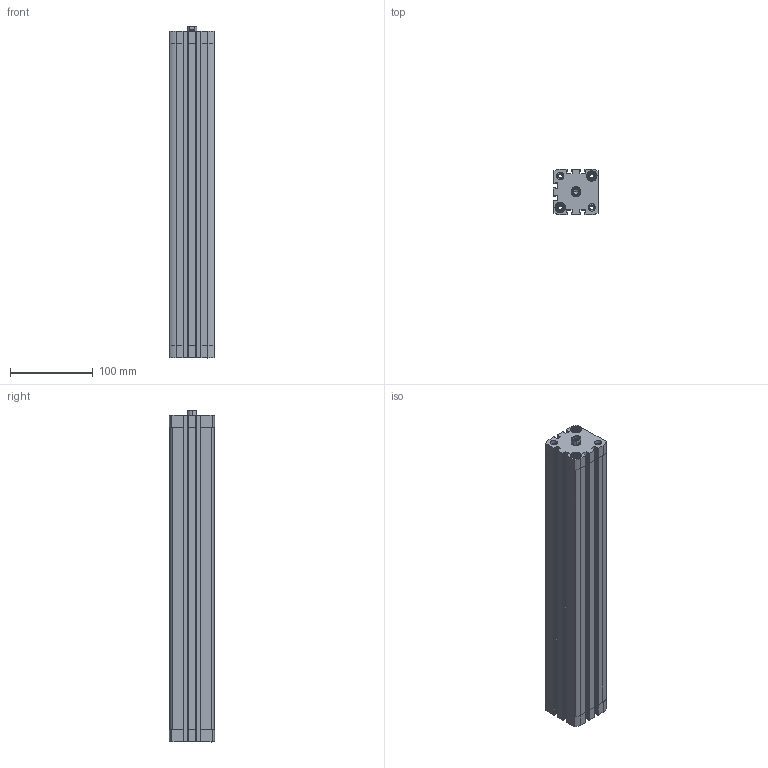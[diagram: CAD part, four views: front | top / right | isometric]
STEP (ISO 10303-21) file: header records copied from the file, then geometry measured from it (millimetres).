
FILE_DESCRIPTION (( 'STEP AP203' ), '1' );
FILE_NAME ('CCN40-350F.STEP', '2017-03-30T11:05:23', ( '' ), ( '' ), 'SwSTEP 2.0', 'SolidWorks 2016', '' );
FILE_SCHEMA (( 'CONFIG_CONTROL_DESIGN' ));
Length unit declared in the file: millimetre
Products named in the file (3): CCN40-350F; CCN-350---(Z); CCN-350_(KS)
Assembly tree (2 placements, depth 2):
  CCN40-350F
    CCN-350---(Z)
    CCN-350_(KS)
Bounding box: 54.5 x 54.5 x 401.1 mm (x, y, z)
Volume: 618337.9 mm3; surface area: 215672 mm2
Topology: 2 solids, 2 shells, 479 faces, 1298 edges, 853 vertices
Faces by surface type: plane 267, cylinder 170, cone 42
Entity records: 15589 total; most frequent: CARTESIAN_POINT 2927, DIRECTION 2652, ORIENTED_EDGE 2592, EDGE_CURVE 1296, AXIS2_PLACEMENT_3D 970, VERTEX_POINT 853, LINE 712, VECTOR 712
